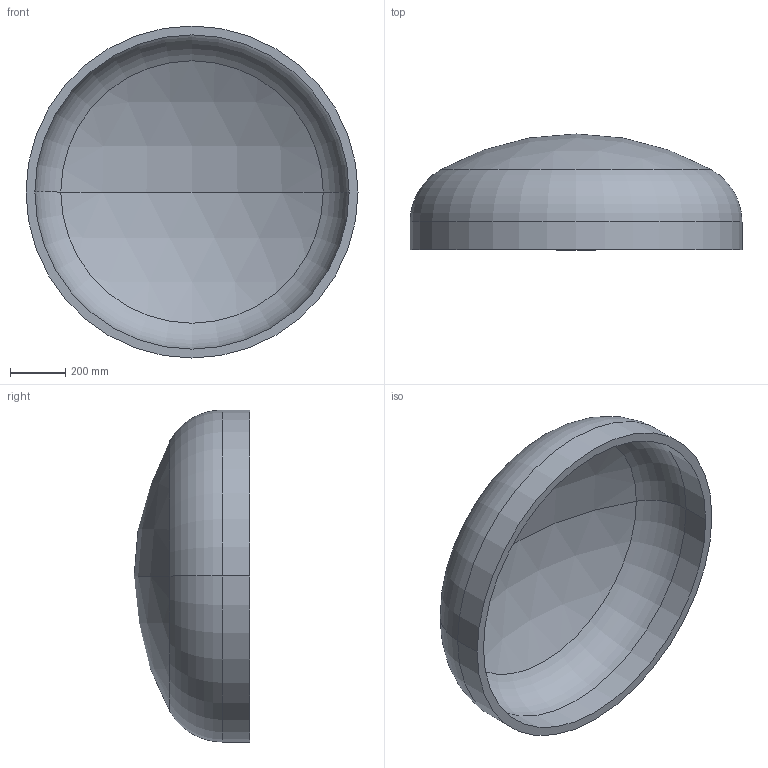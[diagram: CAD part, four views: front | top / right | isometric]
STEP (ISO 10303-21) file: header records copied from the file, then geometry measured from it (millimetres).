
FILE_DESCRIPTION (( 'STEP AP203' ), '1' );
FILE_NAME ('DIN 28013 Korbbogenform_-_Boden DIN 28013 - 1200 x 100 - I - s=32.step', '2016-07-01T09:26:11', ( '' ), ( '' ), 'SwSTEP 2.0', 'SolidWorks 2013', '' );
FILE_SCHEMA (( 'CONFIG_CONTROL_DESIGN' ));
Length unit declared in the file: millimetre
Products named in the file (1): DIN 28013 Korbbogenform_-_Boden DIN 28013 - 1200 x 100 - I - s=32
Bounding box: 1200 x 418.25 x 1200 mm (x, y, z)
Volume: 60156063.4 mm3; surface area: 3879317.7 mm2
Topology: 1 solids, 1 shells, 13 faces, 24 edges, 14 vertices
Faces by surface type: torus 4, cylinder 4, sphere 4, plane 1
Entity records: 407 total; most frequent: DIRECTION 72, CARTESIAN_POINT 52, ORIENTED_EDGE 48, AXIS2_PLACEMENT_3D 34, EDGE_CURVE 24, CIRCLE 20, VERTEX_POINT 14, EDGE_LOOP 14
